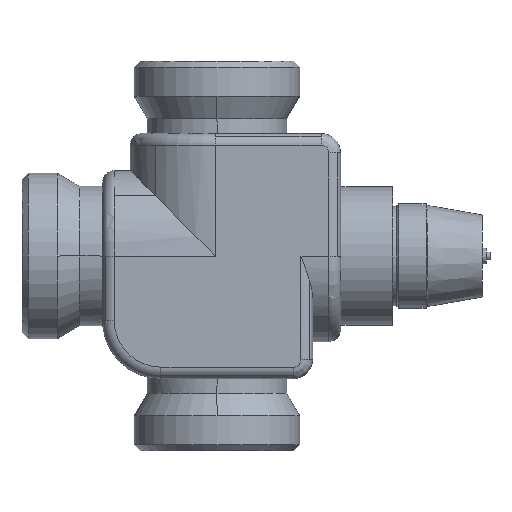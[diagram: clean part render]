
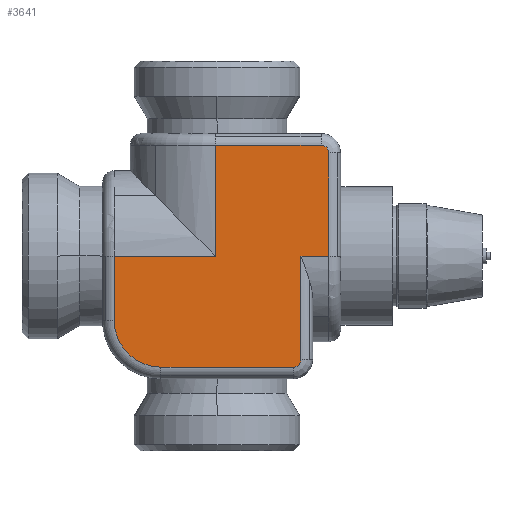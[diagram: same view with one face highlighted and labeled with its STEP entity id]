
A CAD part, left-side view. The second image highlights one B-rep face of the part: STEP entity #3641.
In plain terms, the highlighted planar face has unit normal (-1, 0, 0).
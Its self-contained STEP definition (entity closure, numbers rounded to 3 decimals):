
#3031=CARTESIAN_POINT('',(-21.9,-21.533,49.96));
#3032=VERTEX_POINT('',#3031);
#3044=CARTESIAN_POINT('',(-21.9,-21.533,23.497));
#3045=VERTEX_POINT('',#3044);
#3046=CARTESIAN_POINT('',(-21.9,-21.533,49.96));
#3047=DIRECTION('',(0.0,0.0,-1.0));
#3048=VECTOR('',#3047,26.463);
#3049=LINE('',#3046,#3048);
#3050=EDGE_CURVE('',#3032,#3045,#3049,.T.);
#3115=CARTESIAN_POINT('',(-21.9,-19.533,21.497));
#3116=VERTEX_POINT('',#3115);
#3117=CARTESIAN_POINT('',(-21.9,-19.533,23.497));
#3118=DIRECTION('',(1.,0.,0.));
#3119=DIRECTION('',(0.,-0.707,-0.707));
#3120=AXIS2_PLACEMENT_3D('',#3117,#3118,#3119);
#3121=CIRCLE('',#3120,2.);
#3122=EDGE_CURVE('',#3045,#3116,#3121,.T.);
#3152=CARTESIAN_POINT('',(-21.9,14.363,21.497));
#3153=VERTEX_POINT('',#3152);
#3154=CARTESIAN_POINT('',(-21.9,-19.533,21.497));
#3155=DIRECTION('',(0.0,1.0,0.0));
#3156=VECTOR('',#3155,33.895);
#3157=LINE('',#3154,#3156);
#3158=EDGE_CURVE('',#3116,#3153,#3157,.T.);
#3175=CARTESIAN_POINT('',(-21.9,26.363,33.497));
#3176=VERTEX_POINT('',#3175);
#3177=CARTESIAN_POINT('',(-21.9,14.363,33.497));
#3178=DIRECTION('',(1.0,0.,0.));
#3179=DIRECTION('',(0.,0.707,-0.707));
#3180=AXIS2_PLACEMENT_3D('',#3177,#3178,#3179);
#3181=CIRCLE('',#3180,12.);
#3182=EDGE_CURVE('',#3153,#3176,#3181,.T.);
#3206=CARTESIAN_POINT('',(-21.9,26.363,49.96));
#3207=VERTEX_POINT('',#3206);
#3208=CARTESIAN_POINT('',(-21.9,26.363,33.497));
#3209=DIRECTION('',(0.0,0.0,1.0));
#3210=VECTOR('',#3209,16.463);
#3211=LINE('',#3208,#3210);
#3212=EDGE_CURVE('',#3176,#3207,#3211,.T.);
#3582=CARTESIAN_POINT('',(-21.9,2.415,45.179));
#3583=DIRECTION('',(1.0,0.0,0.0));
#3584=DIRECTION('',(0.0,0.0,1.0));
#3585=AXIS2_PLACEMENT_3D('',#3582,#3583,#3584);
#3586=PLANE('',#3585);
#3587=CARTESIAN_POINT('',(-21.9,-28.681,49.96));
#3588=VERTEX_POINT('',#3587);
#3589=CARTESIAN_POINT('',(-21.9,-21.533,49.96));
#3590=DIRECTION('',(0.0,-1.0,0.0));
#3591=VECTOR('',#3590,7.148);
#3592=LINE('',#3589,#3591);
#3593=EDGE_CURVE('',#3032,#3588,#3592,.T.);
#3594=ORIENTED_EDGE('',*,*,#3593,.T.);
#3595=CARTESIAN_POINT('',(-21.9,-28.681,76.423));
#3596=VERTEX_POINT('',#3595);
#3597=CARTESIAN_POINT('',(-21.9,-28.681,76.423));
#3598=DIRECTION('',(0.0,0.0,-1.0));
#3599=VECTOR('',#3598,26.463);
#3600=LINE('',#3597,#3599);
#3601=EDGE_CURVE('',#3596,#3588,#3600,.T.);
#3602=ORIENTED_EDGE('',*,*,#3601,.F.);
#3603=CARTESIAN_POINT('',(-21.9,-26.681,78.423));
#3604=VERTEX_POINT('',#3603);
#3605=CARTESIAN_POINT('',(-21.9,-26.681,76.423));
#3606=DIRECTION('',(1.,0.,0.));
#3607=DIRECTION('',(0.,-0.707,0.707));
#3608=AXIS2_PLACEMENT_3D('',#3605,#3606,#3607);
#3609=CIRCLE('',#3608,2.);
#3610=EDGE_CURVE('',#3604,#3596,#3609,.T.);
#3611=ORIENTED_EDGE('',*,*,#3610,.F.);
#3612=CARTESIAN_POINT('',(-21.9,0.314,78.423));
#3613=VERTEX_POINT('',#3612);
#3614=CARTESIAN_POINT('',(-21.9,0.314,78.423));
#3615=DIRECTION('',(0.0,-1.0,0.0));
#3616=VECTOR('',#3615,26.995);
#3617=LINE('',#3614,#3616);
#3618=EDGE_CURVE('',#3613,#3604,#3617,.T.);
#3619=ORIENTED_EDGE('',*,*,#3618,.F.);
#3620=CARTESIAN_POINT('',(-21.9,0.314,49.96));
#3621=VERTEX_POINT('',#3620);
#3622=CARTESIAN_POINT('',(-21.9,0.314,49.96));
#3623=DIRECTION('',(0.0,0.0,1.0));
#3624=VECTOR('',#3623,28.463);
#3625=LINE('',#3622,#3624);
#3626=EDGE_CURVE('',#3621,#3613,#3625,.T.);
#3627=ORIENTED_EDGE('',*,*,#3626,.F.);
#3628=CARTESIAN_POINT('',(-21.9,26.363,49.96));
#3629=DIRECTION('',(0.0,-1.0,0.0));
#3630=VECTOR('',#3629,26.048);
#3631=LINE('',#3628,#3630);
#3632=EDGE_CURVE('',#3207,#3621,#3631,.T.);
#3633=ORIENTED_EDGE('',*,*,#3632,.F.);
#3634=ORIENTED_EDGE('',*,*,#3212,.F.);
#3635=ORIENTED_EDGE('',*,*,#3182,.F.);
#3636=ORIENTED_EDGE('',*,*,#3158,.F.);
#3637=ORIENTED_EDGE('',*,*,#3122,.F.);
#3638=ORIENTED_EDGE('',*,*,#3050,.F.);
#3639=EDGE_LOOP('',(#3594,#3602,#3611,#3619,#3627,#3633,#3634,#3635,#3636,#3637,#3638));
#3640=FACE_OUTER_BOUND('',#3639,.T.);
#3641=ADVANCED_FACE('',(#3640),#3586,.F.);
